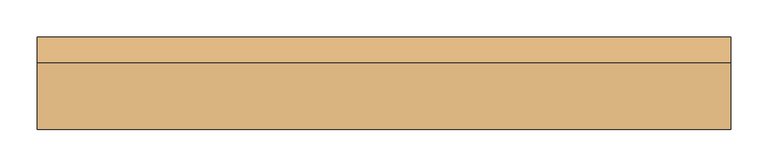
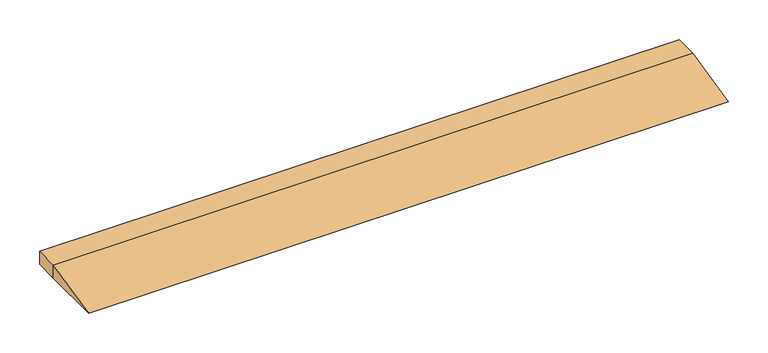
"""IFC4 building model written with IfcOpenShell, lengths in millimetres: door geometry, FDE_SO_Soleiras1 : SO14_SoleiraRampadaDesnívelAté2cm_L=14cm_Cimentado 2."""

from ifc_helpers import new_model, si_unit, frame, origin, place, context, project, spatial, polyline, outline, extrude, source, transform, mapped, element, save


def door_f751b543(model_context):
    return source(origin(), model_context, "Body", "SweptSolid", [
        extrude(outline(polyline([(35.0, 0.0), (35.0, -20.0), (-55.0, -20.0), (35.0, 0.0)])), frame((-467.0, 0.0, 0.0), z_axis=(1.0, 0.0, 0.0), x_axis=(0.0, 1.0, 0.0)), (0.0, 0.0, 1.0), 934.0),
        extrude(outline(polyline([(467.0, 70.0), (467.0, 35.0), (-467.0, 35.0), (-467.0, 70.0), (467.0, 70.0)])), frame((0.0, 0.0, -20.0), z_axis=(0.0, 0.0, 1.0), x_axis=(1.0, 0.0, 0.0)), (0.0, 0.0, 1.0), 20.0),
    ])


if __name__ == "__main__":
    model = new_model("IFC4")
    model_context = context("Model", 3, world=origin())
    ifc_project = project(units=[si_unit("LENGTHUNIT", "METRE", prefix="MILLI")], contexts=[model_context])
    site = spatial("IfcSite", under=ifc_project)
    building = spatial("IfcBuilding", under=site)
    placement = place(None, origin())
    door_shape = door_f751b543(model_context)
    element("IfcDoor", 1, ObjectType="FDE_SO_Soleiras1 : SO14_SoleiraRampadaDesnívelAté2cm_L=14cm_Cimentado 2", at=placement, inside=building, context=model_context, shape_type="MappedRepresentation", body=[
        mapped(door_shape, transform((0.0, 0.0, 0.0), x_axis=(1.0, 0.0, 0.0), y_axis=(0.0, 1.0, 0.0), z_axis=(0.0, 0.0, 1.0))),
    ])
    save(model, "model.ifc")
